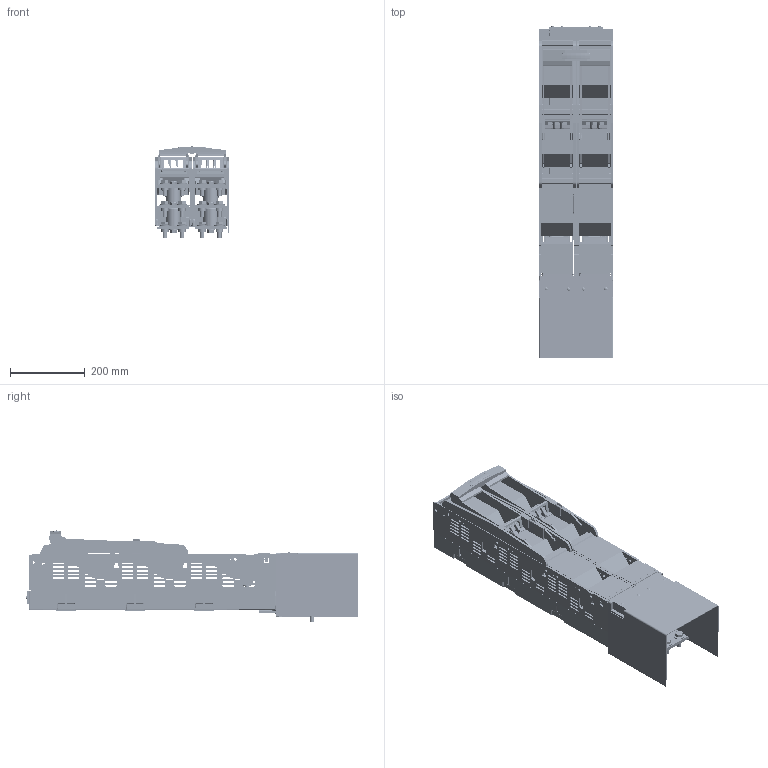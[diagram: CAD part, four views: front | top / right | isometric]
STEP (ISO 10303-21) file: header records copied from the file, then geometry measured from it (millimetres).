
FILE_DESCRIPTION(('CATIA V5 STEP'),'2;1');
FILE_NAME('S:\STEP_Dateien\STEP_Dateien_Leisten\L3021501_L_NH-Sich-Lastschaltleiste_SL3-3x6_2000A_HA_o.-TM.stp','2014-08-29T12:24:21+00:00',('none'),('Jean Müller GmbH'),'CATIA Version 5 Release 19 SP 9 (IN-10)','CATIA V5 STEP AP214','none');
FILE_SCHEMA(('AUTOMOTIVE_DESIGN { 1 0 10303 214 1 1 1 1 }'));
Products named in the file (39): L3021501_L_NH-Sicherungslastschaltleiste; 43548_Verbindungsplatte; 33760_02_L_Traegerteil-Doppelleiste; 33626_01_M_Griffkennzeichnung; 802877_03_L_Anschlussraumabdeckung HA220-SL3x2; 43576_03_Anschlussraumabdeckung; 33614_03_L_Halter; 67283_M01_Spreizniet Rivets; 33614_02_L_Halter; 802900_50_L01_; 802874_L03_Leistendeckel D-SL10/3x3; 33609_02_L_Leistendeckel SL10/3x3; 804359_L_Seitenwaende kpl; 33613_L01_Anschlussraumklappe; 33620_L_Griff D-SL10/3x3; 33621_L_Fuehrung  D-SL10/3x3; 33619_L_Verbindungsstange D-SL10/3x3; 33622_98_Brücke_IGES; 67421_EJOT-PT-Schraube 4x12mm T20; 802637_30_Verbindungswinkel; 155290_Verbindungswinkel; 155291_Verbindungswinkel; 802633_20_L01_Schraubanschluss 910a-Leiste; 153768_Anschlusswinkel L3/L1; 158004_Anschlusslasche; 61246_Setzmutter M12,1; 87437_Giessharzisolator; 158003_Anschlusslasche_L2; 158006_Verbindungsschiene L2; 158002_Anschlusslasche; 155941_Verbindungsschiene; 65817_Sechskantschraube M12x25; 66905_Spannscheibe DIN 6796_12; 61231_Setzmutter_M12; 66903_Spannscheibe DIN6796 -10; 65745_Sechskantschraube M10x20; 65811_Sechskantschraube M12x35; 158005_Verbindungswinkel; 155996_Verbindungsplatte
Assembly tree (80 placements, depth 4):
  L3021501_L_NH-Sicherungslastschaltleiste
    43548_Verbindungsplatte
    33760_02_L_Traegerteil-Doppelleiste  x2
    33626_01_M_Griffkennzeichnung
    802877_03_L_Anschlussraumabdeckung HA220-SL3x2
      43576_03_Anschlussraumabdeckung
      33614_03_L_Halter
      67283_M01_Spreizniet Rivets  x4
      33614_02_L_Halter
    802900_50_L01_
      802874_L03_Leistendeckel D-SL10/3x3  x2
        33609_02_L_Leistendeckel SL10/3x3
        804359_L_Seitenwaende kpl
        33613_L01_Anschlussraumklappe
        33620_L_Griff D-SL10/3x3
        33621_L_Fuehrung  D-SL10/3x3
        33619_L_Verbindungsstange D-SL10/3x3
      33622_98_Brücke_IGES
    67421_EJOT-PT-Schraube 4x12mm T20  x4
    802637_30_Verbindungswinkel  x2
      155290_Verbindungswinkel
      155291_Verbindungswinkel
    802633_20_L01_Schraubanschluss 910a-Leiste  x2
      153768_Anschlusswinkel L3/L1
      158004_Anschlusslasche
      61246_Setzmutter M12,1
      87437_Giessharzisolator
      158003_Anschlusslasche_L2
      158006_Verbindungsschiene L2
      158002_Anschlusslasche
      155941_Verbindungsschiene
      65817_Sechskantschraube M12x25
      66905_Spannscheibe DIN 6796_12
      61231_Setzmutter_M12
      66903_Spannscheibe DIN6796 -10
      65745_Sechskantschraube M10x20
      65811_Sechskantschraube M12x35
    158005_Verbindungswinkel  x4
    155996_Verbindungsplatte  x3
Bounding box: 199.99 x 890.46 x 244.17 mm (x, y, z)
Volume: 9028110.2 mm3; surface area: 2874916.1 mm2
Topology: 123 solids, 123 shells, 7363 faces, 19727 edges, 12552 vertices
Faces by surface type: plane 3874, cylinder 2613, cone 464, bspline 396, sphere 8, torus 8
Entity records: 129965 total; most frequent: CARTESIAN_POINT 29999, ORIENTED_EDGE 19106, DIRECTION 15166, EDGE_CURVE 9553, VECTOR 6609, LINE 6609, VERTEX_POINT 5996, AXIS2_PLACEMENT_3D 5303
